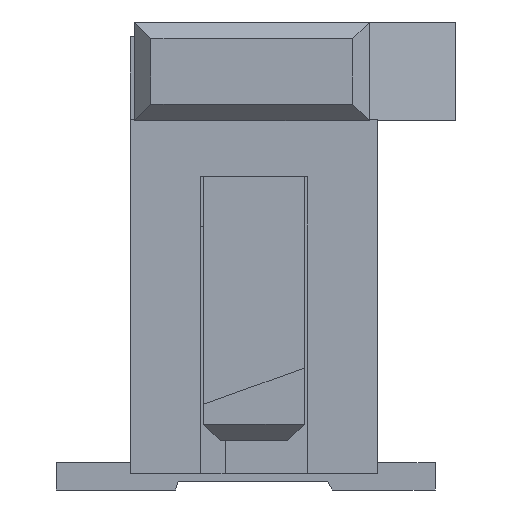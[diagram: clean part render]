
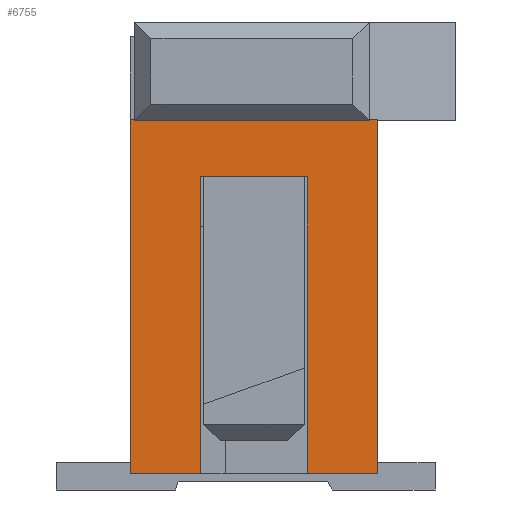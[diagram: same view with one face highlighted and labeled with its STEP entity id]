
A CAD part, left-side view. The second image highlights one B-rep face of the part: STEP entity #6755.
In plain terms, the highlighted planar face has unit normal (-1, 0, 0).
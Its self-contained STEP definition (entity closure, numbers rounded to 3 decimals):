
#146=DIRECTION('',(0.,1.,0.));
#147=VECTOR('',#146,0.1);
#148=CARTESIAN_POINT('',(-7.3,-1.5,0.));
#149=LINE('',#148,#147);
#218=DIRECTION('',(0.,1.,0.));
#219=VECTOR('',#218,0.05);
#220=CARTESIAN_POINT('',(-7.3,1.45,0.));
#221=LINE('',#220,#219);
#994=DIRECTION('',(0.,0.,1.));
#995=VECTOR('',#994,4.3);
#996=CARTESIAN_POINT('',(-7.3,-1.5,-4.3));
#997=LINE('',#996,#995);
#1436=DIRECTION('',(0.,1.,0.));
#1437=VECTOR('',#1436,0.85);
#1438=CARTESIAN_POINT('',(-7.3,0.65,-4.3));
#1439=LINE('',#1438,#1437);
#1460=DIRECTION('',(0.,1.,0.));
#1461=VECTOR('',#1460,0.85);
#1462=CARTESIAN_POINT('',(-7.3,-1.5,-4.3));
#1463=LINE('',#1462,#1461);
#1756=DIRECTION('',(0.,-1.,0.));
#1757=VECTOR('',#1756,2.85);
#1758=CARTESIAN_POINT('',(-7.3,1.45,-0.02));
#1759=LINE('',#1758,#1757);
#1760=DIRECTION('',(0.,0.,1.));
#1761=VECTOR('',#1760,0.02);
#1762=CARTESIAN_POINT('',(-7.3,-1.4,-0.02));
#1763=LINE('',#1762,#1761);
#1764=DIRECTION('',(0.,0.,1.));
#1765=VECTOR('',#1764,3.6);
#1766=CARTESIAN_POINT('',(-7.3,-0.65,-4.3));
#1767=LINE('',#1766,#1765);
#1768=DIRECTION('',(0.,1.,0.));
#1769=VECTOR('',#1768,1.3);
#1770=CARTESIAN_POINT('',(-7.3,-0.65,-0.7));
#1771=LINE('',#1770,#1769);
#1772=DIRECTION('',(0.,0.,1.));
#1773=VECTOR('',#1772,3.6);
#1774=CARTESIAN_POINT('',(-7.3,0.65,-4.3));
#1775=LINE('',#1774,#1773);
#1776=DIRECTION('',(0.,0.,1.));
#1777=VECTOR('',#1776,4.3);
#1778=CARTESIAN_POINT('',(-7.3,1.5,-4.3));
#1779=LINE('',#1778,#1777);
#1780=DIRECTION('',(0.,0.,1.));
#1781=VECTOR('',#1780,0.02);
#1782=CARTESIAN_POINT('',(-7.3,1.45,-0.02));
#1783=LINE('',#1782,#1781);
#3694=CARTESIAN_POINT('',(-7.3,1.5,-4.3));
#3695=CARTESIAN_POINT('',(-7.3,1.5,0.));
#3696=VERTEX_POINT('',#3694);
#3697=VERTEX_POINT('',#3695);
#3698=CARTESIAN_POINT('',(-7.3,-1.5,-4.3));
#3699=CARTESIAN_POINT('',(-7.3,-1.5,0.));
#3700=VERTEX_POINT('',#3698);
#3701=VERTEX_POINT('',#3699);
#3759=CARTESIAN_POINT('',(-7.3,0.65,-4.3));
#3761=VERTEX_POINT('',#3759);
#3766=CARTESIAN_POINT('',(-7.3,-0.65,-4.3));
#3767=VERTEX_POINT('',#3766);
#3778=CARTESIAN_POINT('',(-7.3,0.65,-0.7));
#3779=VERTEX_POINT('',#3778);
#3780=CARTESIAN_POINT('',(-7.3,-0.65,-0.7));
#3781=VERTEX_POINT('',#3780);
#3906=CARTESIAN_POINT('',(-7.3,1.45,-0.02));
#3907=CARTESIAN_POINT('',(-7.3,-1.4,-0.02));
#3908=VERTEX_POINT('',#3906);
#3909=VERTEX_POINT('',#3907);
#3910=CARTESIAN_POINT('',(-7.3,-1.4,0.));
#3911=VERTEX_POINT('',#3910);
#3912=CARTESIAN_POINT('',(-7.3,1.45,0.));
#3913=VERTEX_POINT('',#3912);
#6732=CARTESIAN_POINT('',(-7.3,1.5,0.));
#6733=DIRECTION('',(-1.,0.,0.));
#6734=DIRECTION('',(0.,-1.,0.));
#6735=AXIS2_PLACEMENT_3D('',#6732,#6733,#6734);
#6736=PLANE('',#6735);
#6737=ORIENTED_EDGE('',*,*,#5202,.T.);
#6738=ORIENTED_EDGE('',*,*,#5025,.T.);
#6739=ORIENTED_EDGE('',*,*,#4877,.F.);
#6740=ORIENTED_EDGE('',*,*,#5926,.F.);
#6741=ORIENTED_EDGE('',*,*,#6411,.T.);
#6743=ORIENTED_EDGE('',*,*,#6742,.T.);
#6745=ORIENTED_EDGE('',*,*,#6744,.T.);
#6747=ORIENTED_EDGE('',*,*,#6746,.F.);
#6748=ORIENTED_EDGE('',*,*,#6399,.T.);
#6750=ORIENTED_EDGE('',*,*,#6749,.T.);
#6751=ORIENTED_EDGE('',*,*,#4953,.F.);
#6752=ORIENTED_EDGE('',*,*,#6693,.F.);
#6753=EDGE_LOOP('',(#6737,#6738,#6739,#6740,#6741,#6743,#6745,#6747,#6748,#6750,
#6751,#6752));
#6754=FACE_OUTER_BOUND('',#6753,.F.);
#4877=EDGE_CURVE('',#3701,#3911,#149,.T.);
#4953=EDGE_CURVE('',#3913,#3697,#221,.T.);
#5025=EDGE_CURVE('',#3909,#3911,#1763,.T.);
#5202=EDGE_CURVE('',#3908,#3909,#1759,.T.);
#5926=EDGE_CURVE('',#3700,#3701,#997,.T.);
#6399=EDGE_CURVE('',#3761,#3696,#1439,.T.);
#6411=EDGE_CURVE('',#3700,#3767,#1463,.T.);
#6693=EDGE_CURVE('',#3908,#3913,#1783,.T.);
#6742=EDGE_CURVE('',#3767,#3781,#1767,.T.);
#6744=EDGE_CURVE('',#3781,#3779,#1771,.T.);
#6746=EDGE_CURVE('',#3761,#3779,#1775,.T.);
#6749=EDGE_CURVE('',#3696,#3697,#1779,.T.);
#6755=ADVANCED_FACE('',(#6754),#6736,.T.);
